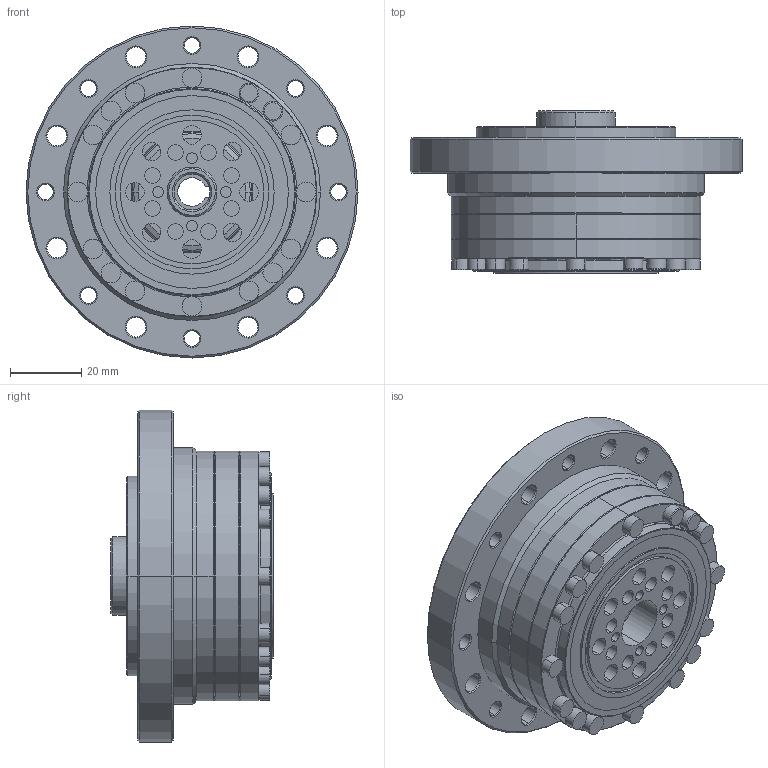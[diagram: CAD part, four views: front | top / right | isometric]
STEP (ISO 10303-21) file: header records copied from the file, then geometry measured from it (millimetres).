
FILE_DESCRIPTION((''),'2;1');
FILE_NAME('LSS-20_ASM','2017-09-16T',('Administrator'),(''),'PRO/ENGINEER BY PARAMETRIC TECHNOLOGY CORPORATION, 2014200','PRO/ENGINEER BY PARAMETRIC TECHNOLOGY CORPORATION, 2014200','');
FILE_SCHEMA(('AUTOMOTIVE_DESIGN { 1 0 10303 214 1 1 1 1 }'));
Length unit declared in the file: millimetre
Products named in the file (30): MANIFOLD_SOLID_BREP_488; MANIFOLD_SOLID_BREP_489; MANIFOLD_SOLID_BREP_490; MANIFOLD_SOLID_BREP_491; MANIFOLD_SOLID_BREP_492; MANIFOLD_SOLID_BREP_493; MANIFOLD_SOLID_BREP_494; MANIFOLD_SOLID_BREP_495; MANIFOLD_SOLID_BREP_496; MANIFOLD_SOLID_BREP_497; MANIFOLD_SOLID_BREP_498; MANIFOLD_SOLID_BREP_499; MANIFOLD_SOLID_BREP_500; MANIFOLD_SOLID_BREP_501; MANIFOLD_SOLID_BREP_502; MANIFOLD_SOLID_BREP_503; MANIFOLD_SOLID_BREP_504; MANIFOLD_SOLID_BREP_505; MANIFOLD_SOLID_BREP_506; MANIFOLD_SOLID_BREP_507; MANIFOLD_SOLID_BREP_508; MANIFOLD_SOLID_BREP_509; MANIFOLD_SOLID_BREP_510; MANIFOLD_SOLID_BREP_511; MANIFOLD_SOLID_BREP_512; MANIFOLD_SOLID_BREP_513; MANIFOLD_SOLID_BREP_514; MANIFOLD_SOLID_BREP_515; ADMI7ED1CHDR_ASM; LSS-20_ASM
Assembly tree (29 placements, depth 3):
  LSS-20_ASM
    ADMI7ED1CHDR_ASM
      MANIFOLD_SOLID_BREP_488
      MANIFOLD_SOLID_BREP_489
      MANIFOLD_SOLID_BREP_490
      MANIFOLD_SOLID_BREP_491
      MANIFOLD_SOLID_BREP_492
      MANIFOLD_SOLID_BREP_493
      MANIFOLD_SOLID_BREP_494
      MANIFOLD_SOLID_BREP_495
      MANIFOLD_SOLID_BREP_496
      MANIFOLD_SOLID_BREP_497
      MANIFOLD_SOLID_BREP_498
      MANIFOLD_SOLID_BREP_499
      MANIFOLD_SOLID_BREP_500
      MANIFOLD_SOLID_BREP_501
      MANIFOLD_SOLID_BREP_502
      MANIFOLD_SOLID_BREP_503
      MANIFOLD_SOLID_BREP_504
      MANIFOLD_SOLID_BREP_505
      MANIFOLD_SOLID_BREP_506
      MANIFOLD_SOLID_BREP_507
      MANIFOLD_SOLID_BREP_508
      MANIFOLD_SOLID_BREP_509
      MANIFOLD_SOLID_BREP_510
      MANIFOLD_SOLID_BREP_511
      MANIFOLD_SOLID_BREP_512
      MANIFOLD_SOLID_BREP_513
      MANIFOLD_SOLID_BREP_514
      MANIFOLD_SOLID_BREP_515
Bounding box: 93 x 45.5 x 93 mm (x, y, z)
Volume: 136732.7 mm3; surface area: 68082.5 mm2
Topology: 28 solids, 28 shells, 766 faces, 2116 edges, 1382 vertices
Faces by surface type: cylinder 357, cone 184, plane 137, torus 58, sphere 26, revolution 4
Entity records: 33505 total; most frequent: DIRECTION 5126, CARTESIAN_POINT 4670, ORIENTED_EDGE 4072, AXIS2_PLACEMENT_3D 2263, PRESENTATION_STYLE_ASSIGNMENT 2064, STYLED_ITEM 2064, CURVE_STYLE 2036, EDGE_CURVE 2036
